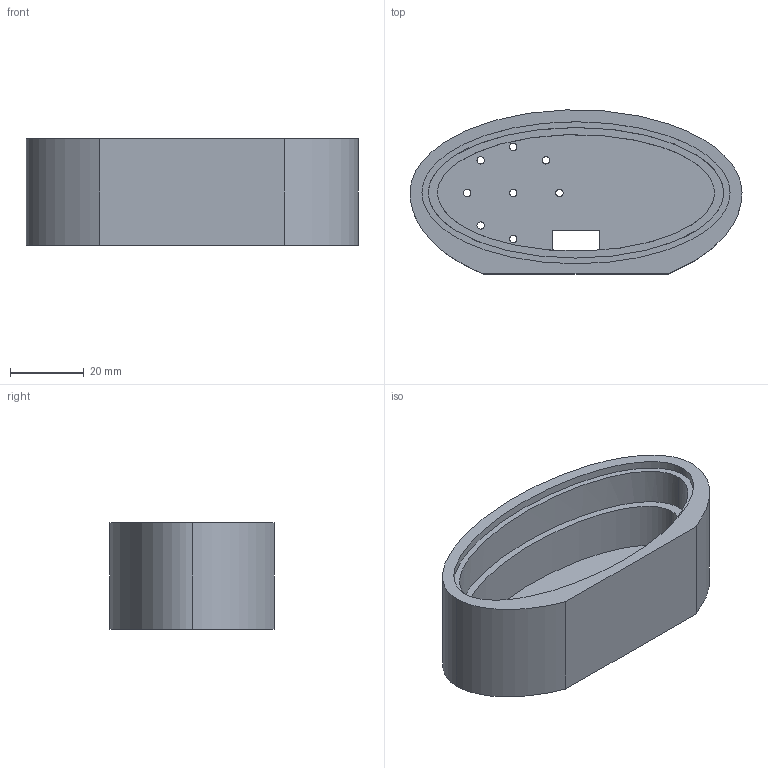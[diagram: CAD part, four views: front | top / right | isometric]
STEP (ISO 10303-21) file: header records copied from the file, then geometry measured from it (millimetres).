
FILE_DESCRIPTION (( 'STEP AP214' ), '1' );
FILE_NAME ('Êîðïóñ.STEP', '2025-03-26T06:00:51', ( '' ), ( '' ), 'SwSTEP 2.0', 'SolidWorks 2020', '' );
FILE_SCHEMA (( 'AUTOMOTIVE_DESIGN' ));
Length unit declared in the file: millimetre
Products named in the file (1): 扻豵鵨
Bounding box: 90 x 44.46 x 29 mm (x, y, z)
Volume: 43648.7 mm3; surface area: 17781 mm2
Topology: 1 solids, 1 shells, 39 faces, 102 edges, 68 vertices
Faces by surface type: cylinder 20, plane 10, bspline 9
Entity records: 1313 total; most frequent: CARTESIAN_POINT 327, ORIENTED_EDGE 204, DIRECTION 186, EDGE_CURVE 102, AXIS2_PLACEMENT_3D 71, VERTEX_POINT 68, EDGE_LOOP 60, VECTOR 44
